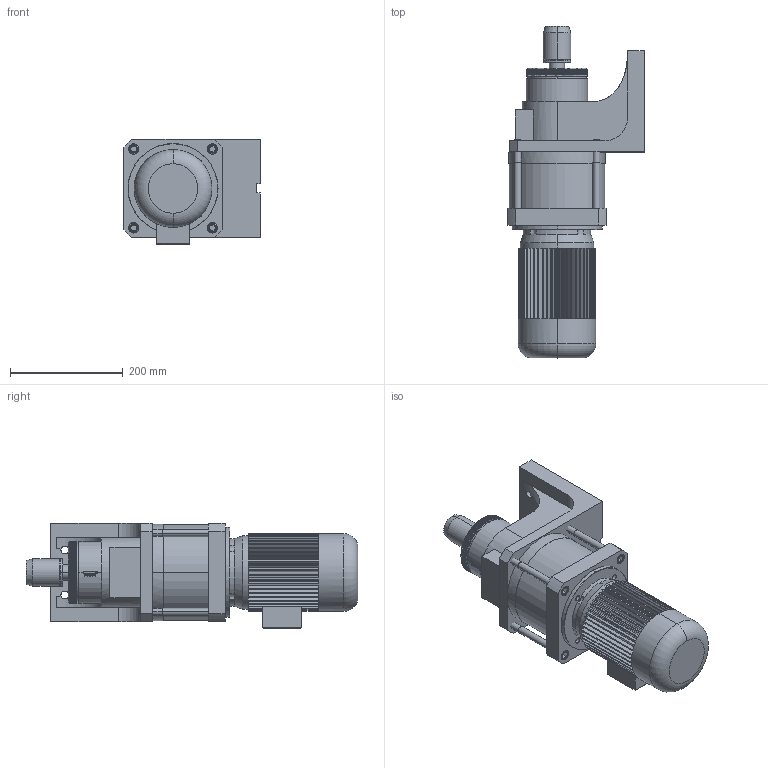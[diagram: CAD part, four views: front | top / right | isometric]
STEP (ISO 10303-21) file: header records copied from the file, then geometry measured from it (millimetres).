
FILE_DESCRIPTION((''),'2;1');
FILE_NAME('JITOU-FKH_ASM','2017-10-13T',('okjx'),(''),'PRO/ENGINEER BY PARAMETRIC TECHNOLOGY CORPORATION, 2008090','PRO/ENGINEER BY PARAMETRIC TECHNOLOGY CORPORATION, 2008090','');
FILE_SCHEMA(('CONFIG_CONTROL_DESIGN'));
Length unit declared in the file: millimetre
Products named in the file (6): ZHIBI-FKH; LUOGAN; DIANJI; KEDUPAN; WEITIAOLUOM; JITOU-FKH_ASM
Assembly tree (8 placements, depth 2):
  JITOU-FKH_ASM
    ZHIBI-FKH
    LUOGAN  x4
    DIANJI
    KEDUPAN
    WEITIAOLUOM
Bounding box: 242.52 x 590 x 187.52 mm (x, y, z)
Volume: 9785700.3 mm3; surface area: 685615.8 mm2
Topology: 8 solids, 8 shells, 1822 faces, 5087 edges, 3299 vertices
Faces by surface type: plane 1256, cylinder 528, cone 22, torus 14, extrusion 2
Entity records: 57584 total; most frequent: CARTESIAN_POINT 12733, ORIENTED_EDGE 9838, DIRECTION 8891, EDGE_CURVE 4919, VERTEX_POINT 3197, AXIS2_PLACEMENT_3D 3005, VECTOR 2881, LINE 2879
